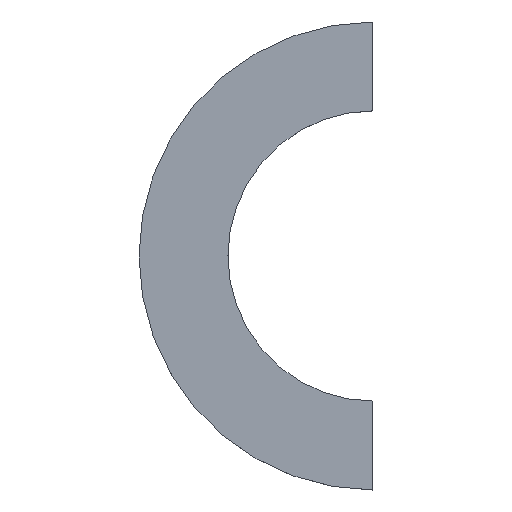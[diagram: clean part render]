
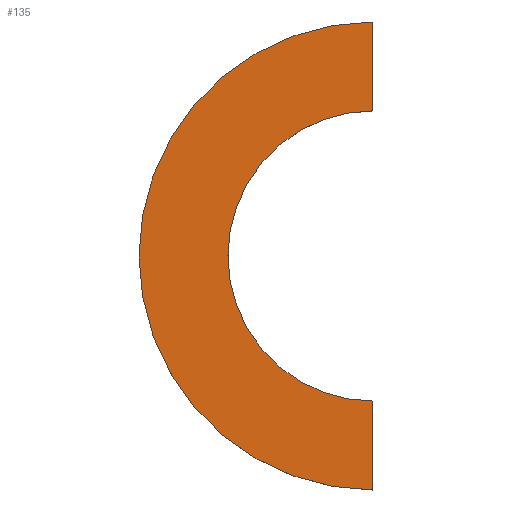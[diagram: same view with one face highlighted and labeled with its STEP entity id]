
A CAD part, top view. The second image highlights one B-rep face of the part: STEP entity #135.
In plain terms, the highlighted planar face has unit normal (0, 0, 1).
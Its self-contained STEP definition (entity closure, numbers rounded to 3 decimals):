
#21 = EDGE_CURVE('',#22,#24,#26,.T.);
#22 = VERTEX_POINT('',#23);
#23 = CARTESIAN_POINT('',(0.,3.25,7.15));
#24 = VERTEX_POINT('',#25);
#25 = CARTESIAN_POINT('',(0.,-3.25,7.15));
#26 = SURFACE_CURVE('',#27,(#32,#44),.PCURVE_S1.);
#27 = CIRCLE('',#28,3.25);
#28 = AXIS2_PLACEMENT_3D('',#29,#30,#31);
#29 = CARTESIAN_POINT('',(0.,0.,7.15));
#30 = DIRECTION('',(0.,0.,1.));
#31 = DIRECTION('',(1.,0.,-0.));
#32 = PCURVE('',#33,#38);
#33 = CYLINDRICAL_SURFACE('',#34,3.25);
#34 = AXIS2_PLACEMENT_3D('',#35,#36,#37);
#35 = CARTESIAN_POINT('',(0.,0.,6.8));
#36 = DIRECTION('',(0.,0.,1.));
#37 = DIRECTION('',(1.,0.,-0.));
#38 = DEFINITIONAL_REPRESENTATION('',(#39),#43);
#39 = LINE('',#40,#41);
#40 = CARTESIAN_POINT('',(0.,0.35));
#41 = VECTOR('',#42,1.);
#42 = DIRECTION('',(1.,0.));
#43 = ( GEOMETRIC_REPRESENTATION_CONTEXT(2) 
PARAMETRIC_REPRESENTATION_CONTEXT() REPRESENTATION_CONTEXT('2D SPACE',''
  ) );
#44 = PCURVE('',#45,#50);
#45 = PLANE('',#46);
#46 = AXIS2_PLACEMENT_3D('',#47,#48,#49);
#47 = CARTESIAN_POINT('',(0.,0.,7.15));
#48 = DIRECTION('',(0.,0.,1.));
#49 = DIRECTION('',(1.,0.,-0.));
#50 = DEFINITIONAL_REPRESENTATION('',(#51),#55);
#51 = CIRCLE('',#52,3.25);
#52 = AXIS2_PLACEMENT_2D('',#53,#54);
#53 = CARTESIAN_POINT('',(0.,0.));
#54 = DIRECTION('',(1.,0.));
#55 = ( GEOMETRIC_REPRESENTATION_CONTEXT(2) 
PARAMETRIC_REPRESENTATION_CONTEXT() REPRESENTATION_CONTEXT('2D SPACE',''
  ) );
#72 = PLANE('',#73);
#73 = AXIS2_PLACEMENT_3D('',#74,#75,#76);
#74 = CARTESIAN_POINT('',(0.,-50.,-50.));
#75 = DIRECTION('',(1.,0.,0.));
#76 = DIRECTION('',(0.,0.,1.));
#125 = PLANE('',#126);
#126 = AXIS2_PLACEMENT_3D('',#127,#128,#129);
#127 = CARTESIAN_POINT('',(0.,-50.,-50.));
#128 = DIRECTION('',(1.,0.,0.));
#129 = DIRECTION('',(0.,0.,1.));
#135 = ADVANCED_FACE('',(#136),#45,.T.);
#136 = FACE_BOUND('',#137,.T.);
#137 = EDGE_LOOP('',(#138,#159,#160,#181));
#138 = ORIENTED_EDGE('',*,*,#139,.T.);
#139 = EDGE_CURVE('',#140,#22,#142,.T.);
#140 = VERTEX_POINT('',#141);
#141 = CARTESIAN_POINT('',(0.,2.015,7.15));
#142 = SURFACE_CURVE('',#143,(#147,#153),.PCURVE_S1.);
#143 = LINE('',#144,#145);
#144 = CARTESIAN_POINT('',(0.,-25.,7.15));
#145 = VECTOR('',#146,1.);
#146 = DIRECTION('',(0.,1.,0.));
#147 = PCURVE('',#45,#148);
#148 = DEFINITIONAL_REPRESENTATION('',(#149),#152);
#149 = B_SPLINE_CURVE_WITH_KNOTS('',1,(#150,#151),.UNSPECIFIED.,.F.,.F.,
  (2,2),(21.75,28.25),.PIECEWISE_BEZIER_KNOTS.);
#150 = CARTESIAN_POINT('',(0.,-3.25));
#151 = CARTESIAN_POINT('',(0.,3.25));
#152 = ( GEOMETRIC_REPRESENTATION_CONTEXT(2) 
PARAMETRIC_REPRESENTATION_CONTEXT() REPRESENTATION_CONTEXT('2D SPACE',''
  ) );
#153 = PCURVE('',#72,#154);
#154 = DEFINITIONAL_REPRESENTATION('',(#155),#158);
#155 = B_SPLINE_CURVE_WITH_KNOTS('',1,(#156,#157),.UNSPECIFIED.,.F.,.F.,
  (2,2),(21.75,28.25),.PIECEWISE_BEZIER_KNOTS.);
#156 = CARTESIAN_POINT('',(57.15,-46.75));
#157 = CARTESIAN_POINT('',(57.15,-53.25));
#158 = ( GEOMETRIC_REPRESENTATION_CONTEXT(2) 
PARAMETRIC_REPRESENTATION_CONTEXT() REPRESENTATION_CONTEXT('2D SPACE',''
  ) );
#159 = ORIENTED_EDGE('',*,*,#21,.T.);
#160 = ORIENTED_EDGE('',*,*,#161,.T.);
#161 = EDGE_CURVE('',#24,#162,#164,.T.);
#162 = VERTEX_POINT('',#163);
#163 = CARTESIAN_POINT('',(0.,-2.015,7.15));
#164 = SURFACE_CURVE('',#165,(#169,#175),.PCURVE_S1.);
#165 = LINE('',#166,#167);
#166 = CARTESIAN_POINT('',(0.,-25.,7.15));
#167 = VECTOR('',#168,1.);
#168 = DIRECTION('',(0.,1.,0.));
#169 = PCURVE('',#45,#170);
#170 = DEFINITIONAL_REPRESENTATION('',(#171),#174);
#171 = B_SPLINE_CURVE_WITH_KNOTS('',1,(#172,#173),.UNSPECIFIED.,.F.,.F.,
  (2,2),(21.75,28.25),.PIECEWISE_BEZIER_KNOTS.);
#172 = CARTESIAN_POINT('',(0.,-3.25));
#173 = CARTESIAN_POINT('',(0.,3.25));
#174 = ( GEOMETRIC_REPRESENTATION_CONTEXT(2) 
PARAMETRIC_REPRESENTATION_CONTEXT() REPRESENTATION_CONTEXT('2D SPACE',''
  ) );
#175 = PCURVE('',#125,#176);
#176 = DEFINITIONAL_REPRESENTATION('',(#177),#180);
#177 = B_SPLINE_CURVE_WITH_KNOTS('',1,(#178,#179),.UNSPECIFIED.,.F.,.F.,
  (2,2),(21.75,28.25),.PIECEWISE_BEZIER_KNOTS.);
#178 = CARTESIAN_POINT('',(57.15,-46.75));
#179 = CARTESIAN_POINT('',(57.15,-53.25));
#180 = ( GEOMETRIC_REPRESENTATION_CONTEXT(2) 
PARAMETRIC_REPRESENTATION_CONTEXT() REPRESENTATION_CONTEXT('2D SPACE',''
  ) );
#181 = ORIENTED_EDGE('',*,*,#182,.F.);
#182 = EDGE_CURVE('',#140,#162,#183,.T.);
#183 = SURFACE_CURVE('',#184,(#189,#196),.PCURVE_S1.);
#184 = CIRCLE('',#185,2.015);
#185 = AXIS2_PLACEMENT_3D('',#186,#187,#188);
#186 = CARTESIAN_POINT('',(0.,0.,7.15));
#187 = DIRECTION('',(0.,0.,1.));
#188 = DIRECTION('',(1.,0.,-0.));
#189 = PCURVE('',#45,#190);
#190 = DEFINITIONAL_REPRESENTATION('',(#191),#195);
#191 = CIRCLE('',#192,2.015);
#192 = AXIS2_PLACEMENT_2D('',#193,#194);
#193 = CARTESIAN_POINT('',(0.,0.));
#194 = DIRECTION('',(1.,0.));
#195 = ( GEOMETRIC_REPRESENTATION_CONTEXT(2) 
PARAMETRIC_REPRESENTATION_CONTEXT() REPRESENTATION_CONTEXT('2D SPACE',''
  ) );
#196 = PCURVE('',#197,#202);
#197 = CYLINDRICAL_SURFACE('',#198,2.015);
#198 = AXIS2_PLACEMENT_3D('',#199,#200,#201);
#199 = CARTESIAN_POINT('',(0.,0.,6.79));
#200 = DIRECTION('',(0.,0.,1.));
#201 = DIRECTION('',(1.,0.,-0.));
#202 = DEFINITIONAL_REPRESENTATION('',(#203),#207);
#203 = LINE('',#204,#205);
#204 = CARTESIAN_POINT('',(0.,0.36));
#205 = VECTOR('',#206,1.);
#206 = DIRECTION('',(1.,0.));
#207 = ( GEOMETRIC_REPRESENTATION_CONTEXT(2) 
PARAMETRIC_REPRESENTATION_CONTEXT() REPRESENTATION_CONTEXT('2D SPACE',''
  ) );
